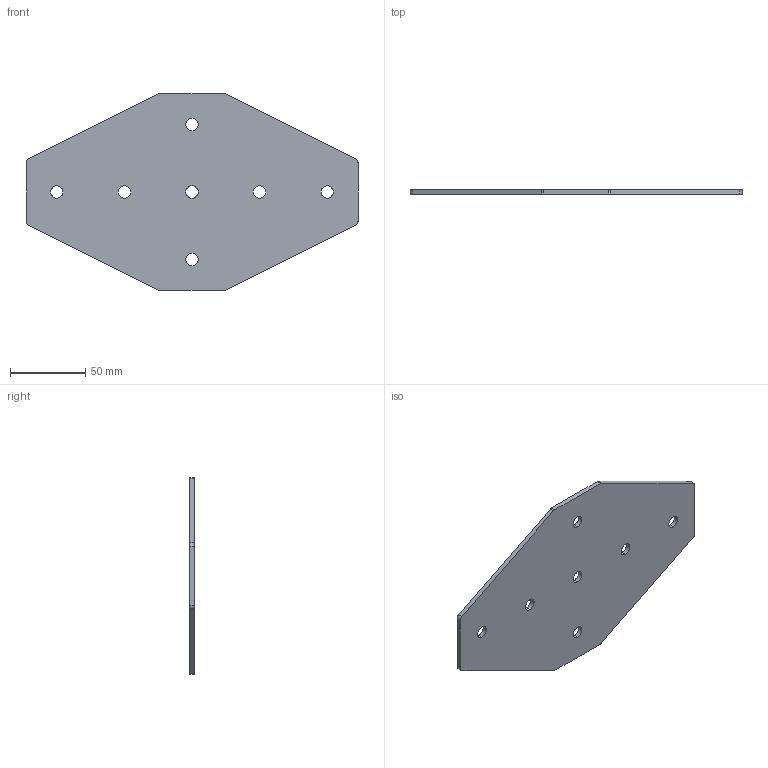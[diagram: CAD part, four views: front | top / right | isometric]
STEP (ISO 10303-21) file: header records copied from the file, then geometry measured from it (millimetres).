
FILE_DESCRIPTION (( 'STEP AP203' ), '1' );
FILE_NAME ('ﾕ-7-ﾓ-45.STEP', '2016-07-23T09:51:18', ( '' ), ( '' ), 'SwSTEP 2.0', 'SolidWorks 2014', '' );
FILE_SCHEMA (( 'CONFIG_CONTROL_DESIGN' ));
Length unit declared in the file: millimetre
Products named in the file (1): ﾕ-7-ﾓ-45
Bounding box: 221 x 3 x 131 mm (x, y, z)
Surface area: 43745.6 mm2 (no closed solid volume)
Topology: 0 solids, 1 shells, 32 faces, 90 edges, 60 vertices
Faces by surface type: cylinder 22, plane 10
Entity records: 1163 total; most frequent: DIRECTION 200, CARTESIAN_POINT 183, ORIENTED_EDGE 180, EDGE_CURVE 90, AXIS2_PLACEMENT_3D 77, VERTEX_POINT 60, LINE 46, VECTOR 46
